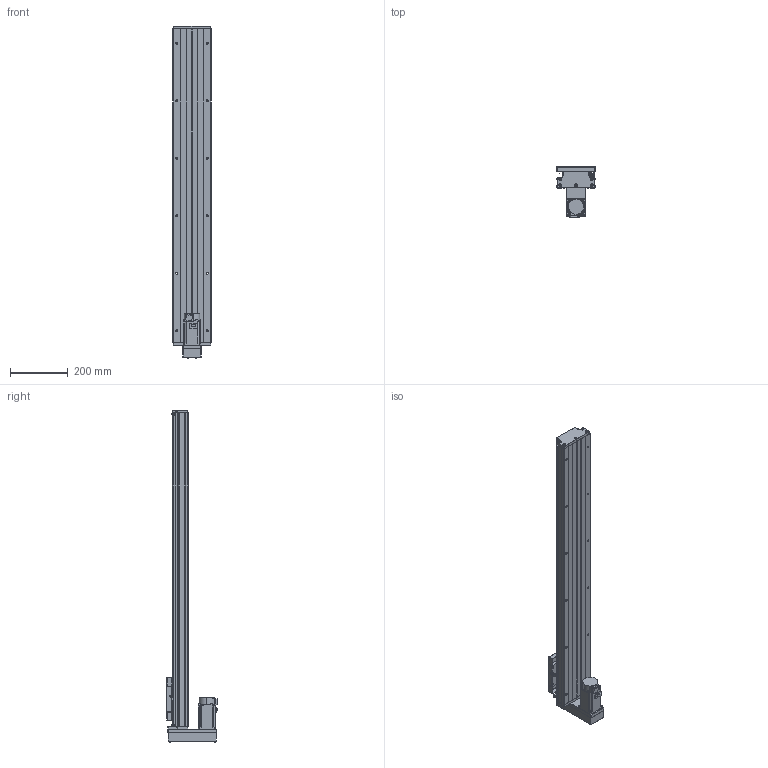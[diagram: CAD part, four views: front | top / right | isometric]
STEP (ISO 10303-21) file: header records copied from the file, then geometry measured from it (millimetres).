
FILE_DESCRIPTION (( 'STEP AP203' ), '1' );
FILE_NAME ('CTH130-900-BM-M40-C4.step', '2023-06-30T02:46:39', ( '微软用户' ), ( '微软中国' ), 'SwSTEP 2.0', 'SolidWorks 2020', '' );
FILE_SCHEMA (( 'CONFIG_CONTROL_DESIGN' ));
Length unit declared in the file: millimetre
Products named in the file (20): GBT77-2000 M3×3; GTH14-033; GB1155-6X6; CTH130-031; CTH130-900-BM-M40-C4; GBT70.1 M5℅16; GBT 70.2-M3¡Á5_M3¡Á6; GTH14-001_900; CTHA60-017; す晦芛蹟隊 M3℅5; CTH130-002_GTH14-002; EE_SX911P_R; HG-KN43J-S100; GB T308.1-2013-6.35; CTHA60-016; GBT 70.2-M4¡Á35_M4¡Á35; GTH14-004; GBT 70.1-M3℅5; GTH14-015-2_CTHA86-015-2; GTH14-005
Assembly tree (60 placements, depth 2):
  CTH130-900-BM-M40-C4
    GTH14-001_900
    CTH130-002_GTH14-002
    GB T308.1-2013-6.35  x2
    GTH14-004
    GTH14-005
    GB1155-6X6  x2
    GBT70.1 M5℅16  x10
    CTHA60-017  x3
    EE_SX911P_R  x3
    CTHA60-016  x2
    GBT 70.1-M3℅5  x6
    GBT77-2000 M3×3  x6
    CTH130-031
    GBT 70.2-M3¡Á5_M3¡Á6  x8
    す晦芛蹟隊 M3℅5  x6
    HG-KN43J-S100
    GBT 70.2-M4¡Á35_M4¡Á35  x4
    GTH14-015-2_CTHA86-015-2
    GTH14-033
Bounding box: 135 x 179.8 x 1154.2 mm (x, y, z)
Volume: 6070102.1 mm3; surface area: 989598.4 mm2
Topology: 63 solids, 63 shells, 2445 faces, 5821 edges, 3601 vertices
Faces by surface type: plane 1312, cylinder 654, cone 299, torus 124, sphere 36, bspline 20
Entity records: 44232 total; most frequent: CARTESIAN_POINT 9897, DIRECTION 6462, ORIENTED_EDGE 6348, EDGE_CURVE 3174, AXIS2_PLACEMENT_3D 2210, VECTOR 2042, LINE 2042, VERTEX_POINT 2011
